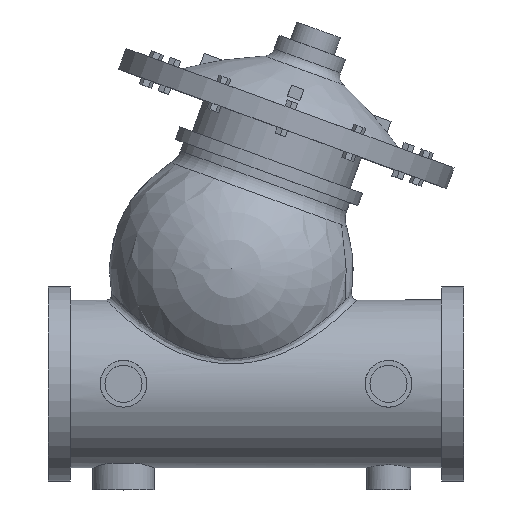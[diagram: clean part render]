
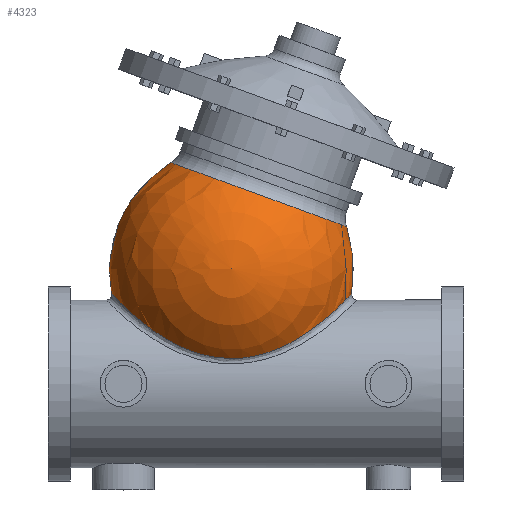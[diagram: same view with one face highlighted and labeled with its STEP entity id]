
A CAD part, top view. The second image highlights one B-rep face of the part: STEP entity #4323.
In plain terms, the highlighted spherical face has radius 70.405 mm.
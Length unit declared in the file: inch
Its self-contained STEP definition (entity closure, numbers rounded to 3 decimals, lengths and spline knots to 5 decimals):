
#1235=FACE_BOUND('',#1552,.T.);
#1236=FACE_BOUND('',#1553,.T.);
#1284=B_SPLINE_CURVE_WITH_KNOTS('',3,(#6050,#6051,#6052,#6053,#6054,#6055,
#6056,#6057,#6058,#6059,#6060,#6061,#6062,#6063,#6064,#6065,#6066,#6067,
#6068,#6069,#6070,#6071,#6072,#6073,#6074,#6075,#6076,#6077,#6078),
 .UNSPECIFIED.,.T.,.F.,(4,1,1,1,1,1,1,1,1,1,1,1,1,1,1,1,1,1,1,1,1,1,1,1,
1,1,4),(0.,1.42687,2.85373,5.70746,7.60995,
9.03682,9.51244,10.46368,11.41492,12.36617,
13.31741,15.2199,17.12239,19.02487,20.92736,
22.82985,24.73234,26.63482,28.53731,29.96418,
31.39104,32.81791,33.53134,34.24477,37.0985,
38.52537,39.95223),.UNSPECIFIED.);
#1314=SPHERICAL_SURFACE('',#4584,2.77186);
#1316=FACE_OUTER_BOUND('',#1551,.T.);
#1551=EDGE_LOOP('',(#2912,#2913));
#1552=EDGE_LOOP('',(#2914));
#1553=EDGE_LOOP('',(#2915,#2916));
#1834=CIRCLE('',#4578,2.11795);
#1839=CIRCLE('',#4583,2.11795);
#1840=CIRCLE('',#4585,2.77186);
#1913=VERTEX_POINT('',#6034);
#1914=VERTEX_POINT('',#6035);
#1918=VERTEX_POINT('',#6046);
#1919=VERTEX_POINT('',#6047);
#1920=VERTEX_POINT('',#6049);
#2316=EDGE_CURVE('',#1913,#1914,#1834,.T.);
#2321=EDGE_CURVE('',#1914,#1913,#1839,.T.);
#2322=EDGE_CURVE('',#1918,#1919,#1840,.T.);
#2323=EDGE_CURVE('',#1920,#1920,#1284,.T.);
#2912=ORIENTED_EDGE('',*,*,#2322,.T.);
#2913=ORIENTED_EDGE('',*,*,#2322,.F.);
#2914=ORIENTED_EDGE('',*,*,#2323,.F.);
#2915=ORIENTED_EDGE('',*,*,#2316,.F.);
#2916=ORIENTED_EDGE('',*,*,#2321,.F.);
#4323=ADVANCED_FACE('',(#1316,#1235,#1236),#1314,.T.);
#4578=AXIS2_PLACEMENT_3D('',#6036,#4906,#4907);
#4583=AXIS2_PLACEMENT_3D('',#6044,#4916,#4917);
#4584=AXIS2_PLACEMENT_3D('',#6045,#4918,#4919);
#4585=AXIS2_PLACEMENT_3D('',#6048,#4920,#4921);
#4906=DIRECTION('center_axis',(0.342,0.94,0.));
#4907=DIRECTION('ref_axis',(0.94,-0.342,0.));
#4916=DIRECTION('center_axis',(0.342,0.94,0.));
#4917=DIRECTION('ref_axis',(0.94,-0.342,0.));
#4918=DIRECTION('center_axis',(0.,0.,1.));
#4919=DIRECTION('ref_axis',(1.,0.,0.));
#4920=DIRECTION('center_axis',(0.,-1.,0.));
#4921=DIRECTION('ref_axis',(-1.,0.,0.));
#6034=CARTESIAN_POINT('',(-1.93061,5.00939,0.));
#6035=CARTESIAN_POINT('',(0.05962,4.28501,-2.11795));
#6036=CARTESIAN_POINT('Origin',(0.05962,4.28501,0.));
#6044=CARTESIAN_POINT('Origin',(0.05962,4.28501,0.));
#6045=CARTESIAN_POINT('Origin',(-0.55197,2.6047,0.));
#6046=CARTESIAN_POINT('',(-0.55197,2.6047,2.77186));
#6047=CARTESIAN_POINT('',(-0.55197,2.6047,-2.77186));
#6048=CARTESIAN_POINT('Origin',(-0.55197,2.6047,0.));
#6049=CARTESIAN_POINT('',(-0.55197,0.57035,1.88272));
#6050=CARTESIAN_POINT('Ctrl Pts',(-0.55197,0.57035,1.88272));
#6051=CARTESIAN_POINT('Ctrl Pts',(-0.74819,0.57035,1.88272));
#6052=CARTESIAN_POINT('Ctrl Pts',(-1.14064,0.61786,1.872));
#6053=CARTESIAN_POINT('Ctrl Pts',(-1.88088,0.87887,1.79267));
#6054=CARTESIAN_POINT('Ctrl Pts',(-2.56817,1.35738,1.54869));
#6055=CARTESIAN_POINT('Ctrl Pts',(-3.0504,1.81732,0.99185));
#6056=CARTESIAN_POINT('Ctrl Pts',(-3.21645,1.99438,0.51726));
#6057=CARTESIAN_POINT('Ctrl Pts',(-3.2707,2.05315,0.13202));
#6058=CARTESIAN_POINT('Ctrl Pts',(-3.27083,2.05337,-0.19803));
#6059=CARTESIAN_POINT('Ctrl Pts',(-3.19811,1.97435,-0.57941));
#6060=CARTESIAN_POINT('Ctrl Pts',(-3.0596,1.83005,-0.92011));
#6061=CARTESIAN_POINT('Ctrl Pts',(-2.79975,1.57685,-1.3023));
#6062=CARTESIAN_POINT('Ctrl Pts',(-2.35995,1.20235,-1.62994));
#6063=CARTESIAN_POINT('Ctrl Pts',(-1.70329,0.80259,-1.82151));
#6064=CARTESIAN_POINT('Ctrl Pts',(-0.94986,0.56055,
-1.88566));
#6065=CARTESIAN_POINT('Ctrl Pts',(-0.15408,0.56039,
-1.88541));
#6066=CARTESIAN_POINT('Ctrl Pts',(0.59932,0.80268,-1.82177));
#6067=CARTESIAN_POINT('Ctrl Pts',(1.25597,1.20221,-1.62956));
#6068=CARTESIAN_POINT('Ctrl Pts',(1.7838,1.65192,-1.23749));
#6069=CARTESIAN_POINT('Ctrl Pts',(2.09881,1.97823,-0.65442));
#6070=CARTESIAN_POINT('Ctrl Pts',(2.19176,2.08091,0.00034));
#6071=CARTESIAN_POINT('Ctrl Pts',(2.10816,1.98853,0.58809));
#6072=CARTESIAN_POINT('Ctrl Pts',(1.91394,1.78668,1.00077));
#6073=CARTESIAN_POINT('Ctrl Pts',(1.70148,1.5872,1.2643));
#6074=CARTESIAN_POINT('Ctrl Pts',(1.33206,1.26519,1.59535));
#6075=CARTESIAN_POINT('Ctrl Pts',(0.77699,0.879,1.79283));
#6076=CARTESIAN_POINT('Ctrl Pts',(0.03672,0.61782,
1.87193));
#6077=CARTESIAN_POINT('Ctrl Pts',(-0.35575,0.57035,1.88272));
#6078=CARTESIAN_POINT('Ctrl Pts',(-0.55197,0.57035,1.88272));
